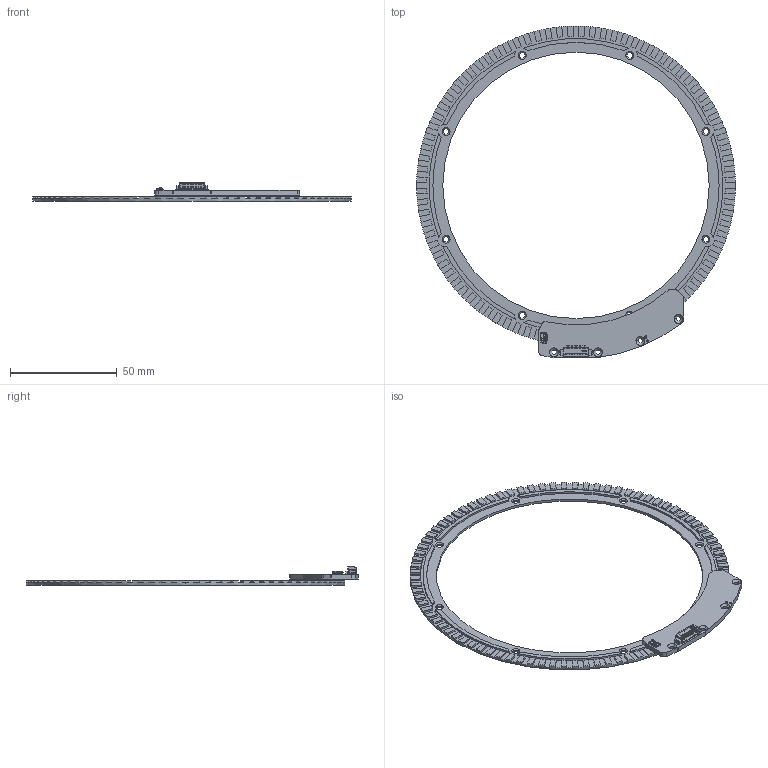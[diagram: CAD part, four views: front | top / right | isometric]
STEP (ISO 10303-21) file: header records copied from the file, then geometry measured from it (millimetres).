
FILE_DESCRIPTION((''),'2;1');
FILE_NAME('SAB150_REV_1_8_ASM','2024-11-21T',('Cujo'),(''),'PRO/ENGINEER BY PARAMETRIC TECHNOLOGY CORPORATION, 2017170','PRO/ENGINEER BY PARAMETRIC TECHNOLOGY CORPORATION, 2017170','');
FILE_SCHEMA(('CONFIG_CONTROL_DESIGN'));
Products named in the file (72): PRT0003; PRT0008; PRT0009; PRT0010; PRT0011; PRT0012; PRT0013; PRT0014; PRT0015; PRT0016; PRT0017; PRT0018; PRT0019; PRT0020; PRT0021; PRT0022; PRT0023; ASM0008_ASM; CN6_ASM_1_ASM; PRT0051; PRT0052; PRT0053; PRT0054; PRT0055; PRT0056; PRT0057; PRT0058; PRT0059; PRT0060; PRT0061; PRT0062; PRT0063; PRT0064; PRT0065; PRT0066; PRT0067; PRT0068; PRT0069; PRT0070; PRT0071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
Assembly tree (71 placements, depth 6):
  SAB150_REV_1_8_ASM
    SAB150_REV_1_8_ASM_1_ASM
      ASM0004_ASM
        PRT0003
        CN6_ASM_1_ASM
          ASM0008_ASM
            PRT0008
            PRT0009
            PRT0010
            PRT0011
            PRT0012
            PRT0013
            PRT0014
            PRT0015
            PRT0016
            PRT0017
            PRT0018
            PRT0019
            PRT0020
            PRT0021
            PRT0022
            PRT0023
        FPC6_ASM_1_ASM
          ASM0016_ASM
            PRT0051
            PRT0052
            PRT0053
            PRT0054
            PRT0055
            PRT0056
            PRT0057
            PRT0058
            PRT0059
            PRT0060
            PRT0061
            PRT0062
            PRT0063
            PRT0064
            PRT0065
            PRT0066
            PRT0067
            PRT0068
            PRT0069
            PRT0070
            PRT0071
            PRT0072
            PRT0073
            PRT0074
            PRT0075
            PRT0076
            PRT0077
            PRT0078
            PRT0079
            PRT0080
            PRT0081
            PRT0082
            PRT0083
            PRT0084
            PRT0085
            PRT0086
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Bounding box: 149.6 x 155.8 x 8.55 mm (x, y, z)
Volume: 10539 mm3; surface area: 16675.9 mm2
Topology: 65 solids, 65 shells, 1887 faces, 5101 edges, 3383 vertices
Faces by surface type: plane 1283, cylinder 324, extrusion 250, cone 24, bspline 4, sphere 2
Entity records: 85659 total; most frequent: CARTESIAN_POINT 22015, ORIENTED_EDGE 10198, DIRECTION 9074, EDGE_CURVE 5099, VECTOR 3984, LINE 3734, VERTEX_POINT 3383, PRESENTATION_STYLE_ASSIGNMENT 3079
